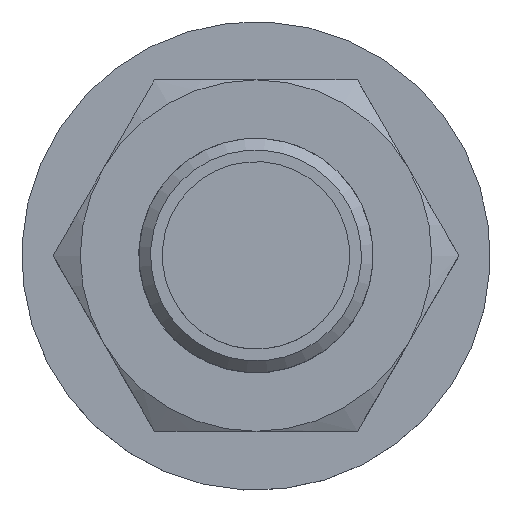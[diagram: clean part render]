
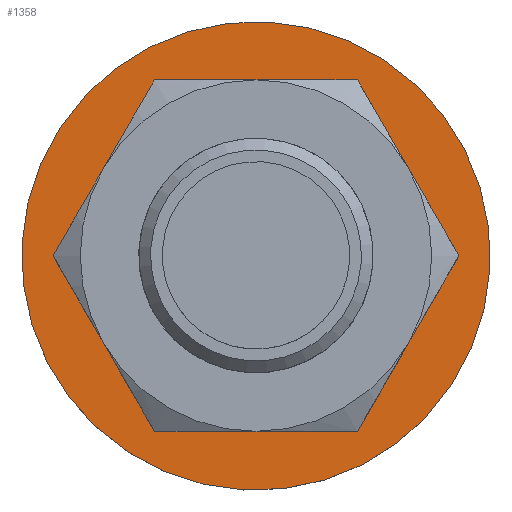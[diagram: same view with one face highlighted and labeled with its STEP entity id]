
A CAD part, top view. The second image highlights one B-rep face of the part: STEP entity #1358.
In plain terms, the highlighted planar face has unit normal (0, 0, 1).
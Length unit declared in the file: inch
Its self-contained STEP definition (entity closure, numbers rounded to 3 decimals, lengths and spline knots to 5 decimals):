
#227=PLANE('',#1469);
#266=FACE_BOUND('',#411,.T.);
#315=FACE_OUTER_BOUND('',#410,.T.);
#410=EDGE_LOOP('',(#952));
#411=EDGE_LOOP('',(#953,#954,#955,#956,#957,#958));
#511=CIRCLE('',#1441,0.46875);
#512=CIRCLE('',#1443,0.46875);
#513=CIRCLE('',#1445,0.46875);
#514=CIRCLE('',#1447,0.46875);
#515=CIRCLE('',#1449,0.46875);
#516=CIRCLE('',#1451,0.46875);
#518=CIRCLE('',#1467,0.625);
#575=VERTEX_POINT('',#1974);
#577=VERTEX_POINT('',#1979);
#579=VERTEX_POINT('',#1986);
#580=VERTEX_POINT('',#1995);
#583=VERTEX_POINT('',#2006);
#584=VERTEX_POINT('',#2015);
#594=VERTEX_POINT('',#2097);
#697=EDGE_CURVE('',#577,#575,#511,.T.);
#701=EDGE_CURVE('',#579,#577,#512,.T.);
#703=EDGE_CURVE('',#575,#580,#513,.T.);
#707=EDGE_CURVE('',#583,#579,#514,.T.);
#709=EDGE_CURVE('',#580,#584,#515,.T.);
#712=EDGE_CURVE('',#584,#583,#516,.T.);
#733=EDGE_CURVE('',#594,#594,#518,.T.);
#952=ORIENTED_EDGE('',*,*,#733,.F.);
#953=ORIENTED_EDGE('',*,*,#697,.T.);
#954=ORIENTED_EDGE('',*,*,#703,.T.);
#955=ORIENTED_EDGE('',*,*,#709,.T.);
#956=ORIENTED_EDGE('',*,*,#712,.T.);
#957=ORIENTED_EDGE('',*,*,#707,.T.);
#958=ORIENTED_EDGE('',*,*,#701,.T.);
#1358=ADVANCED_FACE('',(#315,#266),#227,.F.);
#1441=AXIS2_PLACEMENT_3D('',#1980,#1612,#1613);
#1443=AXIS2_PLACEMENT_3D('',#1993,#1616,#1617);
#1445=AXIS2_PLACEMENT_3D('',#2000,#1620,#1621);
#1447=AXIS2_PLACEMENT_3D('',#2013,#1624,#1625);
#1449=AXIS2_PLACEMENT_3D('',#2020,#1628,#1629);
#1451=AXIS2_PLACEMENT_3D('',#2029,#1632,#1633);
#1467=AXIS2_PLACEMENT_3D('',#2098,#1670,#1671);
#1469=AXIS2_PLACEMENT_3D('',#2101,#1674,#1675);
#1612=DIRECTION('center_axis',(0.,0.,
-1.));
#1613=DIRECTION('ref_axis',(-0.5,0.866,0.));
#1616=DIRECTION('center_axis',(0.,0.,
-1.));
#1617=DIRECTION('ref_axis',(-0.5,0.866,0.));
#1620=DIRECTION('center_axis',(0.,0.,
-1.));
#1621=DIRECTION('ref_axis',(-0.5,0.866,0.));
#1624=DIRECTION('center_axis',(0.,0.,
-1.));
#1625=DIRECTION('ref_axis',(-0.5,0.866,0.));
#1628=DIRECTION('center_axis',(0.,0.,
-1.));
#1629=DIRECTION('ref_axis',(-0.5,0.866,0.));
#1632=DIRECTION('center_axis',(0.,0.,
-1.));
#1633=DIRECTION('ref_axis',(-0.5,0.866,0.));
#1670=DIRECTION('center_axis',(0.,0.,
-1.));
#1671=DIRECTION('ref_axis',(-0.453,0.891,0.));
#1674=DIRECTION('center_axis',(0.,0.,
-1.));
#1675=DIRECTION('ref_axis',(0.891,0.453,0.));
#1974=CARTESIAN_POINT('',(0.,-0.46875,6.1));
#1979=CARTESIAN_POINT('',(0.40595,-0.23438,6.1));
#1980=CARTESIAN_POINT('Origin',(0.,0.,
6.1));
#1986=CARTESIAN_POINT('',(0.40595,0.23438,6.1));
#1993=CARTESIAN_POINT('Origin',(0.,0.,
6.1));
#1995=CARTESIAN_POINT('',(-0.40595,-0.23438,6.1));
#2000=CARTESIAN_POINT('Origin',(0.,0.,
6.1));
#2006=CARTESIAN_POINT('',(0.,0.46875,6.1));
#2013=CARTESIAN_POINT('Origin',(0.,0.,
6.1));
#2015=CARTESIAN_POINT('',(-0.40595,0.23438,6.1));
#2020=CARTESIAN_POINT('Origin',(0.,0.,
6.1));
#2029=CARTESIAN_POINT('Origin',(0.,0.,
6.1));
#2097=CARTESIAN_POINT('',(0.2832,-0.55716,6.1));
#2098=CARTESIAN_POINT('Origin',(0.,0.,
6.1));
#2101=CARTESIAN_POINT('Origin',(0.,0.,
6.1));
